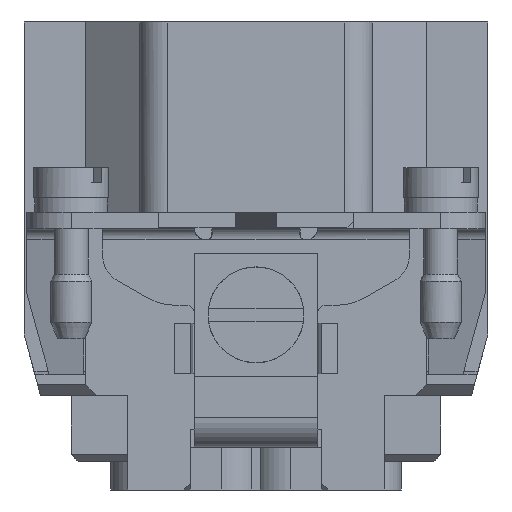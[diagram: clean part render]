
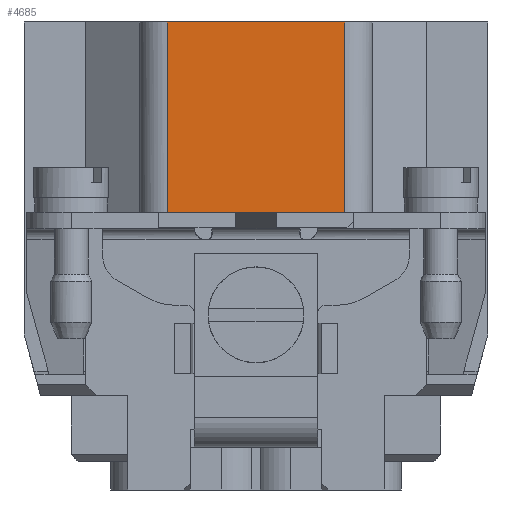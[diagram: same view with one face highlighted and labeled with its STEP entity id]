
A CAD part, left-side view. The second image highlights one B-rep face of the part: STEP entity #4685.
In plain terms, the highlighted planar face has unit normal (-1, 0, 0).
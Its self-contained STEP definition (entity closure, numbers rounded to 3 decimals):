
#4685=ADVANCED_FACE('',(#6392),#5724,.T.);
#5724=PLANE('',#22394);
#6392=FACE_OUTER_BOUND('',#7367,.T.);
#7367=EDGE_LOOP('',(#9902,#9903,#9904,#9905));
#9902=ORIENTED_EDGE('',*,*,#16016,.F.);
#9903=ORIENTED_EDGE('',*,*,#16777,.T.);
#9904=ORIENTED_EDGE('',*,*,#16442,.T.);
#9905=ORIENTED_EDGE('',*,*,#16778,.T.);
#14157=VERTEX_POINT('',#29986);
#14158=VERTEX_POINT('',#29988);
#14531=VERTEX_POINT('',#30920);
#14532=VERTEX_POINT('',#30922);
#16016=EDGE_CURVE('',#14157,#14158,#18486,.T.);
#16442=EDGE_CURVE('',#14532,#14531,#18755,.T.);
#16777=EDGE_CURVE('',#14157,#14532,#19058,.T.);
#16778=EDGE_CURVE('',#14531,#14158,#19059,.T.);
#18486=LINE('',#29987,#20284);
#18755=LINE('',#30921,#20553);
#19058=LINE('',#31565,#20856);
#19059=LINE('',#31566,#20857);
#20284=VECTOR('',#24317,1.);
#20553=VECTOR('',#25048,1.);
#20856=VECTOR('',#25559,1.);
#20857=VECTOR('',#25560,1.);
#22394=AXIS2_PLACEMENT_3D('',#31567,#25561,#25562);
#24317=DIRECTION('',(0.,-1.,0.));
#25048=DIRECTION('',(0.,-1.,0.));
#25559=DIRECTION('',(0.,0.,-1.));
#25560=DIRECTION('',(0.,0.,1.));
#25561=DIRECTION('',(-1.,0.,0.));
#25562=DIRECTION('',(0.,0.,-1.));
#29986=CARTESIAN_POINT('',(-42.125,6.5,15.1));
#29987=CARTESIAN_POINT('',(-42.125,-8.5,15.1));
#29988=CARTESIAN_POINT('',(-42.125,-6.5,15.1));
#30920=CARTESIAN_POINT('',(-42.125,-6.5,1.2));
#30921=CARTESIAN_POINT('',(-42.125,-8.5,1.2));
#30922=CARTESIAN_POINT('',(-42.125,6.5,1.2));
#31565=CARTESIAN_POINT('',(-42.125,6.5,15.1));
#31566=CARTESIAN_POINT('',(-42.125,-6.5,15.1));
#31567=CARTESIAN_POINT('',(-42.125,-8.5,15.1));
